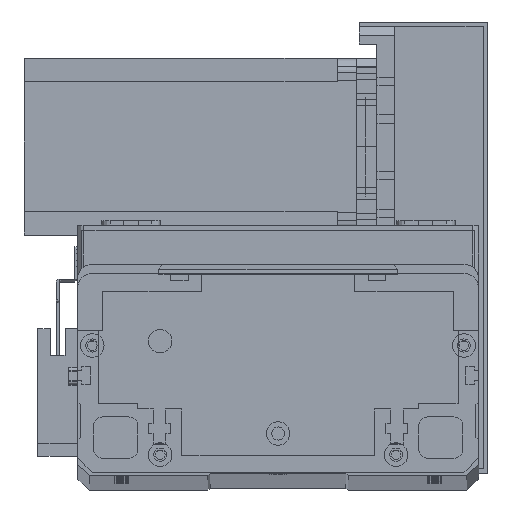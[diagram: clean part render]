
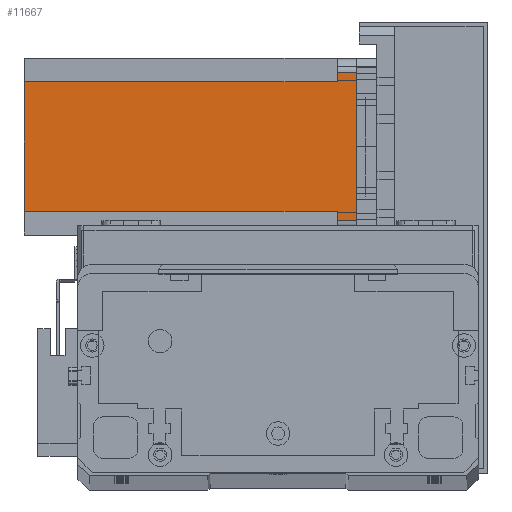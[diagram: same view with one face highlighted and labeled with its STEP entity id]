
A CAD part, top view. The second image highlights one B-rep face of the part: STEP entity #11667.
In plain terms, the highlighted planar face has unit normal (0, 0, 1) as drawn and (0, 1, 0) by its records, which use the part's own axes.
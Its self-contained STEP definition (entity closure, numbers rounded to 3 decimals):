
#1484 = CARTESIAN_POINT ( 'NONE',  ( 5., 60., -6.5 ) ) ;
#2612 = VERTEX_POINT ( 'NONE', #30468 ) ;
#2792 = ORIENTED_EDGE ( 'NONE', *, *, #5267, .F. ) ;
#2866 = VECTOR ( 'NONE', #10354, 1000. ) ;
#3210 = CARTESIAN_POINT ( 'NONE',  ( 55., 60., 0. ) ) ;
#4927 = EDGE_CURVE ( 'NONE', #10426, #24465, #13146, .T. ) ;
#5267 = EDGE_CURVE ( 'NONE', #18861, #24465, #14441, .T. ) ;
#5752 = EDGE_CURVE ( 'NONE', #2612, #18861, #21485, .T. ) ;
#5785 = DIRECTION ( 'NONE',  ( 1., 0., 0. ) ) ;
#5824 = CARTESIAN_POINT ( 'NONE',  ( 52., 60., -6.5 ) ) ;
#6090 = EDGE_CURVE ( 'NONE', #2612, #19362, #6747, .T. ) ;
#6233 = DIRECTION ( 'NONE',  ( -1., 0., 0. ) ) ;
#6373 = EDGE_CURVE ( 'NONE', #7902, #19362, #18898, .T. ) ;
#6623 = EDGE_CURVE ( 'NONE', #7902, #18104, #7186, .T. ) ;
#6747 = LINE ( 'NONE', #7014, #14012 ) ;
#7006 = ORIENTED_EDGE ( 'NONE', *, *, #27068, .F. ) ;
#7014 = CARTESIAN_POINT ( 'NONE',  ( 0., 60., -112.5 ) ) ;
#7174 = EDGE_CURVE ( 'NONE', #18104, #24173, #30824, .T. ) ;
#7186 = LINE ( 'NONE', #28552, #12125 ) ;
#7785 = DIRECTION ( 'NONE',  ( 0., 0., -1. ) ) ;
#7902 = VERTEX_POINT ( 'NONE', #25038 ) ;
#8782 = VECTOR ( 'NONE', #5785, 1000. ) ;
#9723 = CARTESIAN_POINT ( 'NONE',  ( 8., 60., -112.5 ) ) ;
#10115 = DIRECTION ( 'NONE',  ( 0., 0., -1. ) ) ;
#10289 = CARTESIAN_POINT ( 'NONE',  ( 55., 60., -112.5 ) ) ;
#10354 = DIRECTION ( 'NONE',  ( 0., 0., 1. ) ) ;
#10399 = CARTESIAN_POINT ( 'NONE',  ( 52., 60., -112.5 ) ) ;
#10426 = VERTEX_POINT ( 'NONE', #3210 ) ;
#10468 = LINE ( 'NONE', #14806, #22415 ) ;
#10651 = ORIENTED_EDGE ( 'NONE', *, *, #4927, .T. ) ;
#10794 = DIRECTION ( 'NONE',  ( 0., 0., 1. ) ) ;
#10906 = DIRECTION ( 'NONE',  ( 0., 1., 0. ) ) ;
#11634 = PLANE ( 'NONE',  #21162 ) ;
#11661 = CARTESIAN_POINT ( 'NONE',  ( 0., 60., -112.5 ) ) ;
#11667 = ADVANCED_FACE ( 'NONE', ( #28495 ), #11634, .T. ) ;
#12125 = VECTOR ( 'NONE', #27329, 1000. ) ;
#13071 = DIRECTION ( 'NONE',  ( 0., 0., 1. ) ) ;
#13146 = LINE ( 'NONE', #10289, #15320 ) ;
#13429 = ORIENTED_EDGE ( 'NONE', *, *, #6373, .F. ) ;
#14012 = VECTOR ( 'NONE', #6233, 1000. ) ;
#14112 = CARTESIAN_POINT ( 'NONE',  ( 5., 60., -112.5 ) ) ;
#14441 = LINE ( 'NONE', #5824, #8782 ) ;
#14806 = CARTESIAN_POINT ( 'NONE',  ( 0., 60., 0. ) ) ;
#15320 = VECTOR ( 'NONE', #10115, 1000. ) ;
#16795 = ORIENTED_EDGE ( 'NONE', *, *, #6623, .T. ) ;
#16956 = CARTESIAN_POINT ( 'NONE',  ( 55., 60., -6.5 ) ) ;
#17000 = VECTOR ( 'NONE', #13071, 1000. ) ;
#17641 = EDGE_LOOP ( 'NONE', ( #7006, #10651, #2792, #17673, #29555, #13429, #16795, #27034 ) ) ;
#17673 = ORIENTED_EDGE ( 'NONE', *, *, #5752, .F. ) ;
#18104 = VERTEX_POINT ( 'NONE', #1484 ) ;
#18131 = CARTESIAN_POINT ( 'NONE',  ( 5., 60., 0. ) ) ;
#18166 = VECTOR ( 'NONE', #7785, 1000. ) ;
#18861 = VERTEX_POINT ( 'NONE', #30528 ) ;
#18898 = LINE ( 'NONE', #9723, #18166 ) ;
#19247 = CARTESIAN_POINT ( 'NONE',  ( 8., 60., -112.5 ) ) ;
#19362 = VERTEX_POINT ( 'NONE', #19247 ) ;
#21162 = AXIS2_PLACEMENT_3D ( 'NONE', #11661, #10906, #10794 ) ;
#21485 = LINE ( 'NONE', #10399, #2866 ) ;
#22415 = VECTOR ( 'NONE', #26584, 1000. ) ;
#24173 = VERTEX_POINT ( 'NONE', #18131 ) ;
#24465 = VERTEX_POINT ( 'NONE', #16956 ) ;
#25038 = CARTESIAN_POINT ( 'NONE',  ( 8., 60., -6.5 ) ) ;
#26584 = DIRECTION ( 'NONE',  ( -1., 0., 0. ) ) ;
#27034 = ORIENTED_EDGE ( 'NONE', *, *, #7174, .T. ) ;
#27068 = EDGE_CURVE ( 'NONE', #10426, #24173, #10468, .T. ) ;
#27329 = DIRECTION ( 'NONE',  ( -1., 0., 0. ) ) ;
#28495 = FACE_OUTER_BOUND ( 'NONE', #17641, .T. ) ;
#28552 = CARTESIAN_POINT ( 'NONE',  ( 8., 60., -6.5 ) ) ;
#29555 = ORIENTED_EDGE ( 'NONE', *, *, #6090, .T. ) ;
#30468 = CARTESIAN_POINT ( 'NONE',  ( 52., 60., -112.5 ) ) ;
#30528 = CARTESIAN_POINT ( 'NONE',  ( 52., 60., -6.5 ) ) ;
#30824 = LINE ( 'NONE', #14112, #17000 ) ;
